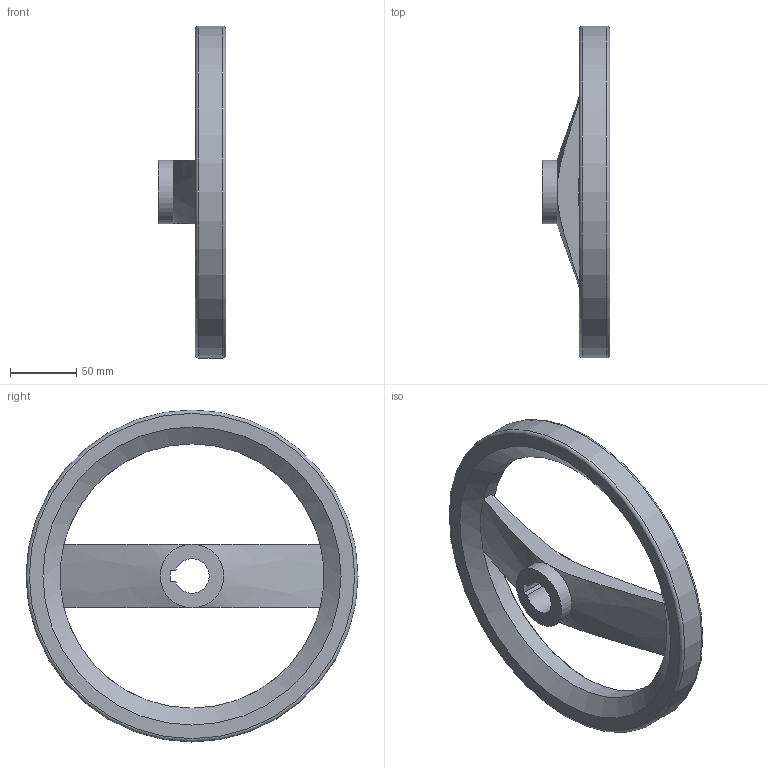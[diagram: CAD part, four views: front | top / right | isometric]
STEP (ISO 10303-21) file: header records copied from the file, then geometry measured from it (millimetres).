
FILE_DESCRIPTION( ( 'STEP AP203' ), '1' );
FILE_NAME( 'C:/Temp/Ganter_Step_05_03_2020/data/1_3/gn_324/gn_324_k/gn_324_k_a/Handwheel, matt black GN 324-250-K26-A.stp', '2020-03-05T10:33:01', ( 'License CC BY-ND 4.0' ), ( 'CADENAS' ), ' ', 'PARTsolutions', ' ' );
FILE_SCHEMA( ( 'CONFIG_CONTROL_DESIGN' ) );
Length unit declared in the file: millimetre
Products named in the file (1): _Handwheel, matt black GN 324-250-K26-A
Bounding box: 51 x 250 x 250 mm (x, y, z)
Volume: 503315.2 mm3; surface area: 89508.1 mm2
Topology: 1 solids, 1 shells, 22 faces, 52 edges, 30 vertices
Faces by surface type: plane 9, cone 6, cylinder 5, torus 2
Full cylindrical faces by diameter (mm): 48 x2, 199 x1, 250 x1
Entity records: 772 total; most frequent: CARTESIAN_POINT 251, DIRECTION 102, ORIENTED_EDGE 86, AXIS2_PLACEMENT_3D 44, EDGE_CURVE 43, EDGE_LOOP 34, VERTEX_POINT 29, FACE_OUTER_BOUND 28
